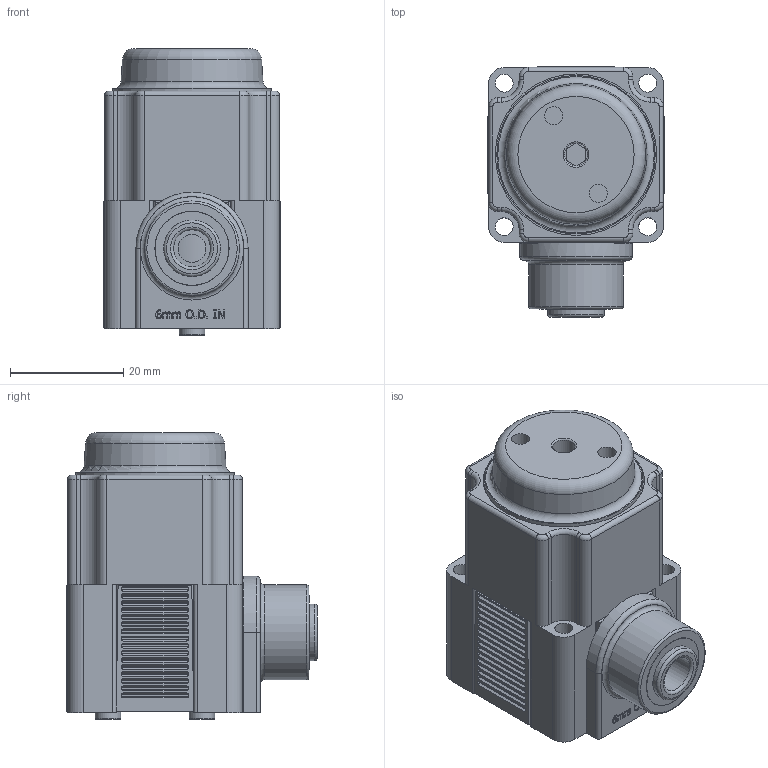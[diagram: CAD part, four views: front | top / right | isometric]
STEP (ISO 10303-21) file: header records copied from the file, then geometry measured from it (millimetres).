
FILE_DESCRIPTION(/* description */ (''),/* implementation_level */ '2;1');
FILE_NAME(/* name */ 'K:\Normteile INVENTOR\Air-Logic\Regulators\PR6000\PR 6___ 8 Push-In Fitting for 6mm O.D. Tube In.igs.ipt.stp',/* time_stamp */ '2020-05-27T10:53:13+02:00',/* author */ ('Paul'),/* organization */ (''),/* preprocessor_version */ 'ST-DEVELOPER v18',/* originating_system */ 'Autodesk Inventor 2020',/* authorisation */ '');
FILE_SCHEMA (('AUTOMOTIVE_DESIGN { 1 0 10303 214 3 1 1 }'));
Length unit declared in the file: inch
Products named in the file (1): PR 6___ 8 Push-In Fitting for 6mm O.D. Tube In.igs
Bounding box: 31.19 x 44.31 x 50.78 mm (x, y, z)
Volume: 41765.5 mm3; surface area: 14835.4 mm2
Topology: 1 solids, 1 shells, 797 faces, 2073 edges, 1367 vertices
Faces by surface type: plane 401, cylinder 274, bspline 85, torus 34, cone 3
Full cylindrical faces by diameter (mm): 1.194 x1, 2.032 x1, 3.124 x2, 3.175 x8, 3.226 x2, 4.013 x1, 4.521 x2, 4.953 x1, 6.553 x1, 8.382 x2, 9.169 x1, 9.398 x1, 10.033 x1, 12.903 x1, 13.081 x1, 13.157 x1, 16.764 x1, 25.781 x1, 28.047 x1, 28.575 x1
Entity records: 28582 total; most frequent: CARTESIAN_POINT 8091, ORIENTED_EDGE 4146, DIRECTION 4069, EDGE_CURVE 2073, AXIS2_PLACEMENT_3D 1544, VERTEX_POINT 1367, LINE 981, VECTOR 981
